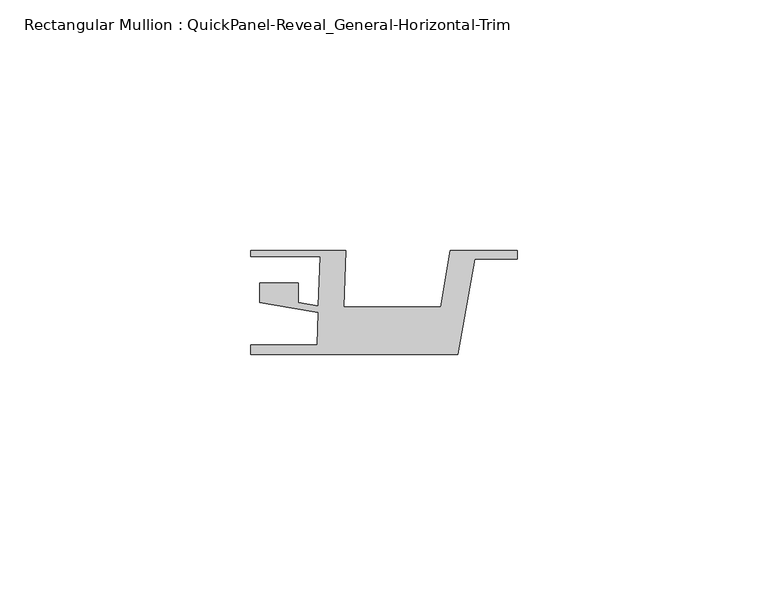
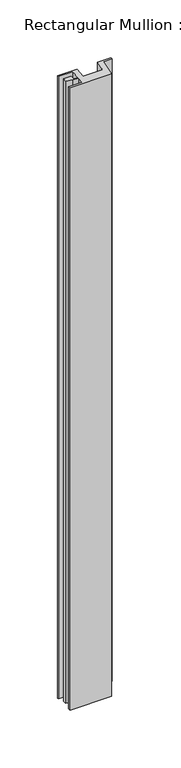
"""IFC4 building model written with IfcOpenShell, lengths in millimetres: member geometry, Rectangular Mullion : QuickPanel-Reveal_General-Horizontal-Trim."""

from ifc_helpers import new_model, si_unit, frame, origin, place, context, project, spatial, polyline, outline, extrude, source, transform, mapped, element, save


def rectangular_mullion_quickpanel_reveal_general_horizontal_43e5e7cb(model_context):
    return source(origin(), model_context, "Body", "SweptSolid", [
        extrude(outline(polyline([(-53.1926881, -8.6293878), (-53.1926881, -6.6935423), (-39.9517754, -6.6935423), (-39.7249902, -0.1992641), (-44.9752711, 0.7008023), (-51.4106037, 1.8040245), (-51.4106037, 5.6493034), (-43.6658306, 5.6493034), (-43.6658306, 1.7648465), (-39.6802617, 1.0815922), (-39.3363347, 10.9303752), (-53.1926881, 10.9303752), (-53.1926881, 12.1803727), (-34.2095873, 12.1803727), (-34.6033563, 0.9043028), (-15.3127056, 0.9043028), (-13.3796258, 12.1803727), (0.0, 12.1803727), (0.0, 10.4985348), (-8.5254306, 10.4985348), (-11.8981995, -8.6293878), (-53.1926881, -8.6293878)])), frame((0.0, 0.0, -654.9485599), z_axis=(0.0, 0.0, 1.0), x_axis=(1.0, 0.0, 0.0)), (0.0, 0.0, 1.0), 654.9485599),
    ])


if __name__ == "__main__":
    model = new_model("IFC4")
    model_context = context("Model", 3, world=origin())
    ifc_project = project(units=[si_unit("LENGTHUNIT", "METRE", prefix="MILLI")], contexts=[model_context])
    site = spatial("IfcSite", under=ifc_project)
    building = spatial("IfcBuilding", under=site)
    placement = place(None, origin())
    rectangular_mullion_quickpanel_reveal_general_horizontal_shape = rectangular_mullion_quickpanel_reveal_general_horizontal_43e5e7cb(model_context)
    element("IfcMember", 1, ObjectType="Rectangular Mullion : QuickPanel-Reveal_General-Horizontal-Trim", at=placement, inside=building, context=model_context, shape_type="MappedRepresentation", body=[
        mapped(rectangular_mullion_quickpanel_reveal_general_horizontal_shape, transform((0.0, 0.0, 0.0), x_axis=(1.0, 0.0, 0.0), y_axis=(0.0, 1.0, 0.0), z_axis=(0.0, 0.0, 1.0))),
    ])
    save(model, "model.ifc")
